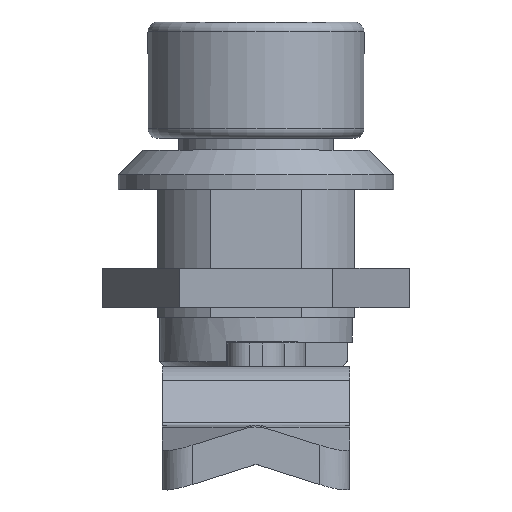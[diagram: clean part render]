
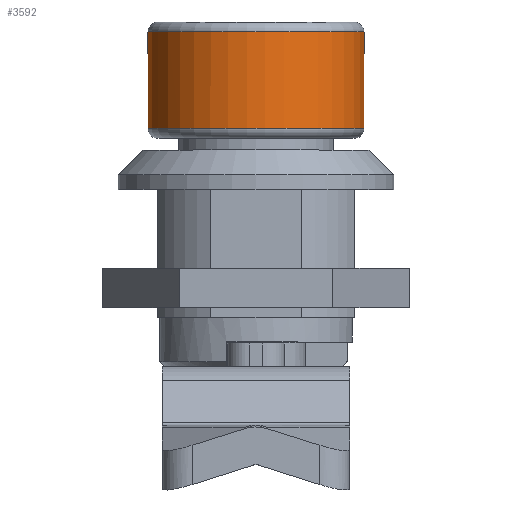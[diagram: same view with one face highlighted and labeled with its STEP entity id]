
A CAD part, top view. The second image highlights one B-rep face of the part: STEP entity #3592.
In plain terms, the highlighted cylindrical face has radius 11 mm (diameter 22 mm), a partial arc.
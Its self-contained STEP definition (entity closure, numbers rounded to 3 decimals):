
#36 = CARTESIAN_POINT ( 'NONE',  ( -37.5, 9.128, -6.138 ) ) ;
#47 = CARTESIAN_POINT ( 'NONE',  ( -27.7, 9.071, -6.222 ) ) ;
#540 = CARTESIAN_POINT ( 'NONE',  ( -27.7, 9.071, -6.222 ) ) ;
#651 = EDGE_CURVE ( 'NONE', #4246, #5163, #4834, .T. ) ;
#1190 = EDGE_CURVE ( 'NONE', #5163, #4027, #5001, .T. ) ;
#1211 = CARTESIAN_POINT ( 'NONE',  ( -37.5, 0., 0. ) ) ;
#1359 = DIRECTION ( 'NONE',  ( 1., 0., 0. ) ) ;
#1391 = CARTESIAN_POINT ( 'NONE',  ( -27.7, 0., 0. ) ) ;
#1424 = CARTESIAN_POINT ( 'NONE',  ( -27.7, -9.071, -6.222 ) ) ;
#1466 = VERTEX_POINT ( 'NONE', #1631 ) ;
#1472 = EDGE_LOOP ( 'NONE', ( #3118, #1696, #2405, #3431 ) ) ;
#1631 = CARTESIAN_POINT ( 'NONE',  ( -27.7, -9.071, -6.222 ) ) ;
#1684 = CIRCLE ( 'NONE', #1772, 11. ) ;
#1696 = ORIENTED_EDGE ( 'NONE', *, *, #4390, .T. ) ;
#1762 = CARTESIAN_POINT ( 'NONE',  ( -30.967, 9.09, -6.194 ) ) ;
#1772 = AXIS2_PLACEMENT_3D ( 'NONE', #1391, #3000, #4117 ) ;
#2135 = DIRECTION ( 'NONE',  ( 0., 1., 0. ) ) ;
#2189 = AXIS2_PLACEMENT_3D ( 'NONE', #4901, #1359, #2135 ) ;
#2331 = AXIS2_PLACEMENT_3D ( 'NONE', #1211, #3268, #2831 ) ;
#2405 = ORIENTED_EDGE ( 'NONE', *, *, #651, .T. ) ;
#2470 = CARTESIAN_POINT ( 'NONE',  ( -37.5, -9.128, -6.138 ) ) ;
#2831 = DIRECTION ( 'NONE',  ( 0., -1., 0. ) ) ;
#2890 = CARTESIAN_POINT ( 'NONE',  ( -30.967, -9.09, -6.194 ) ) ;
#3000 = DIRECTION ( 'NONE',  ( -1., 0., 0. ) ) ;
#3118 = ORIENTED_EDGE ( 'NONE', *, *, #4016, .T. ) ;
#3268 = DIRECTION ( 'NONE',  ( 1., 0., 0. ) ) ;
#3361 = FACE_OUTER_BOUND ( 'NONE', #1472, .T. ) ;
#3431 = ORIENTED_EDGE ( 'NONE', *, *, #1190, .T. ) ;
#3568 = CARTESIAN_POINT ( 'NONE',  ( -37.5, 9.128, -6.138 ) ) ;
#3592 = ADVANCED_FACE ( 'NONE', ( #3361 ), #4133, .T. ) ;
#3790 = CARTESIAN_POINT ( 'NONE',  ( -37.5, -9.128, -6.138 ) ) ;
#4016 = EDGE_CURVE ( 'NONE', #4027, #1466, #4924, .T. ) ;
#4027 = VERTEX_POINT ( 'NONE', #2470 ) ;
#4117 = DIRECTION ( 'NONE',  ( 0., 1., 0. ) ) ;
#4133 = CYLINDRICAL_SURFACE ( 'NONE', #2189, 11. ) ;
#4246 = VERTEX_POINT ( 'NONE', #47 ) ;
#4390 = EDGE_CURVE ( 'NONE', #1466, #4246, #1684, .T. ) ;
#4418 = CARTESIAN_POINT ( 'NONE',  ( -34.233, 9.109, -6.166 ) ) ;
#4834 = B_SPLINE_CURVE_WITH_KNOTS ( 'NONE', 3,
 ( #540, #1762, #4418, #36 ),
 .UNSPECIFIED., .F., .F.,
 ( 4, 4 ),
 ( 0.001, 0.011 ),
 .UNSPECIFIED. ) ;
#4901 = CARTESIAN_POINT ( 'NONE',  ( -17.9, 0., 0. ) ) ;
#4924 = B_SPLINE_CURVE_WITH_KNOTS ( 'NONE', 3,
 ( #3790, #5023, #2890, #1424 ),
 .UNSPECIFIED., .F., .F.,
 ( 4, 4 ),
 ( 0.001, 0.011 ),
 .UNSPECIFIED. ) ;
#5001 = CIRCLE ( 'NONE', #2331, 11. ) ;
#5023 = CARTESIAN_POINT ( 'NONE',  ( -34.233, -9.109, -6.166 ) ) ;
#5163 = VERTEX_POINT ( 'NONE', #3568 ) ;
